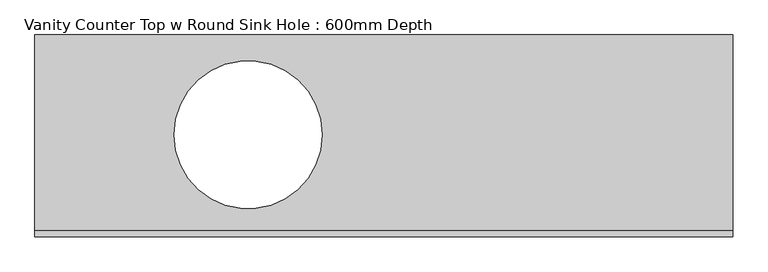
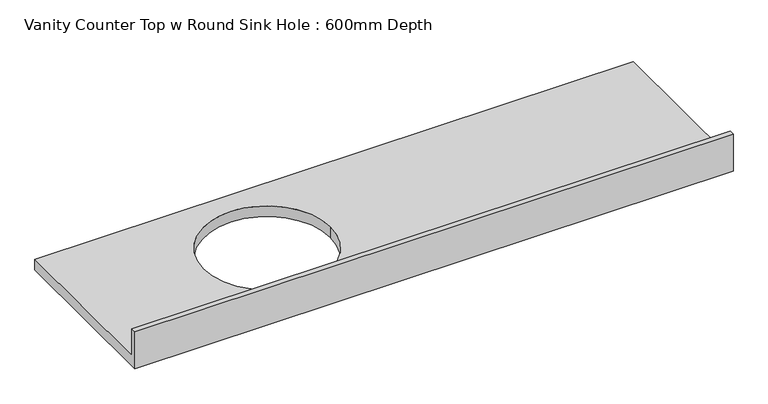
"""IFC4 building model written with IfcOpenShell, lengths in millimetres: furniture geometry, Vanity Counter Top w Round Sink Hole : 600mm Depth."""

import ifcopenshell
import ifcopenshell.guid

model = None  # the IFC model being written
_history = None  # IfcOwnerHistory: only IFC2X3 demands one
_inside = {}  # id of a spatial element -> (the spatial element, [elements in it])
_under = {}  # id of a project, library or spatial element -> (it, [spatial elements below it])
_declared = {}  # id of a project -> (the project, [libraries it declares])
_typed = {}  # id of a type object -> (the type object, [elements of that type])
_made_of = {}  # id of a material, layer set ... -> (it, [elements and type objects made of it])


def new_model(schema):
    """Start an empty IFC model of exactly this schema.

    Asked for "IFC4X3", IfcOpenShell would pick the latest addendum, in which some entities
    have other attributes; the version numbers below select the first issue.
    IFC2X3 requires an IfcOwnerHistory on every rooted entity: one is made here for all.
    """
    global model, _history
    if schema == "IFC4X3":
        model = ifcopenshell.file(schema_version=(4, 3, 0, 0))
    else:
        model = ifcopenshell.file(schema=schema)
    _inside.clear()
    _under.clear()
    _declared.clear()
    _typed.clear()
    _made_of.clear()
    _history = None
    if model.schema == "IFC2X3":
        org = make("IfcOrganization", Name="unknown")
        user = make(
            "IfcPersonAndOrganization",
            ThePerson=make("IfcPerson", FamilyName="unknown"),
            TheOrganization=org,
        )
        app = make(
            "IfcApplication",
            ApplicationDeveloper=org,
            Version="unknown",
            ApplicationFullName="unknown",
            ApplicationIdentifier="unknown",
        )
        _history = make(
            "IfcOwnerHistory",
            OwningUser=user,
            OwningApplication=app,
            ChangeAction="ADDED",
            CreationDate=0,
        )
    return model


def make(cls, **values):
    """One entity of the class cls with the attributes given. An attribute that is None is left unset."""
    return model.create_entity(
        cls, **{name: value for name, value in values.items() if value is not None}
    )


def rooted(cls, **values):
    """An entity with a GlobalId (a new one), such as an element, a storey or a relation."""
    return make(cls, GlobalId=ifcopenshell.guid.new(), OwnerHistory=_history, **values)


def si_unit(unit_type, name, prefix=None):
    """IfcSIUnit, for example si_unit("LENGTHUNIT", "METRE", prefix="MILLI")."""
    return make("IfcSIUnit", UnitType=unit_type, Prefix=prefix, Name=name)


def assignment(units):
    """IfcUnitAssignment: the units of a project."""
    return None if units is None else make("IfcUnitAssignment", Units=units)


def point(xyz):
    """IfcCartesianPoint."""
    return None if xyz is None else make("IfcCartesianPoint", Coordinates=xyz)


def direction(xyz):
    """IfcDirection."""
    return None if xyz is None else make("IfcDirection", DirectionRatios=xyz)


def frame(location, z_axis=None, x_axis=None):
    """IfcAxis2Placement3D, a coordinate frame: its origin and axes. An axis left out is left unset."""
    return make(
        "IfcAxis2Placement3D",
        Location=point(location),
        Axis=direction(z_axis),
        RefDirection=direction(x_axis),
    )


def origin():
    """The frame at (0, 0, 0) with its axes left unset."""
    return frame((0.0, 0.0, 0.0))


def place(relative_to, where):
    """IfcLocalPlacement: puts the frame where relative to a parent placement (None: the world)."""
    return make(
        "IfcLocalPlacement", PlacementRelTo=relative_to, RelativePlacement=where
    )


def context(
    kind, dimensions, precision=None, world=None, true_north=None, identifier=None
):
    """IfcGeometricRepresentationContext, for example the 3D "Model" context."""
    return make(
        "IfcGeometricRepresentationContext",
        ContextIdentifier=identifier,
        ContextType=kind,
        CoordinateSpaceDimension=dimensions,
        Precision=precision,
        WorldCoordinateSystem=world,
        TrueNorth=true_north,
    )


def project(units=None, contexts=None):
    """IfcProject with its units and contexts."""
    return rooted(
        "IfcProject",
        Name="project",
        RepresentationContexts=contexts,
        UnitsInContext=assignment(units),
    )


def spatial(cls, under=None, at=None, **own):
    """A site, building, storey or space (cls), placed at a placement, below another one or the project."""
    s = rooted(cls, ObjectPlacement=at, **own)
    if under is not None:
        _under.setdefault(under.id(), (under, []))[1].append(s)
    return s


def polyline(points):
    """IfcPolyline through the points."""
    return make("IfcPolyline", Points=[point(p) for p in points])


def circle_curve(where, radius):
    """IfcCircle in the frame where."""
    return make("IfcCircle", Position=where, Radius=radius)


def shape(context_of_items, identifier, shape_type, items):
    """IfcShapeRepresentation: the items that make up one representation, for example the "Body"."""
    return make(
        "IfcShapeRepresentation",
        ContextOfItems=context_of_items,
        RepresentationIdentifier=identifier,
        RepresentationType=shape_type,
        Items=items,
    )


def source(mapping_origin, context_of_items, identifier, shape_type, items):
    """IfcRepresentationMap: a shape defined once, which mapped items show again and again."""
    return make(
        "IfcRepresentationMap",
        MappingOrigin=mapping_origin,
        MappedRepresentation=shape(context_of_items, identifier, shape_type, items),
    )


def transform(
    local_origin,
    x_axis=None,
    y_axis=None,
    z_axis=None,
    scale=None,
    scale2=None,
    scale3=None,
    uniform=True,
):
    """IfcCartesianTransformationOperator3D, or its non-uniform kind. x_axis, y_axis, z_axis: its Axis1, 2, 3."""
    if uniform:
        return make(
            "IfcCartesianTransformationOperator3D",
            Axis1=direction(x_axis),
            Axis2=direction(y_axis),
            LocalOrigin=point(local_origin),
            Scale=scale,
            Axis3=direction(z_axis),
        )
    return make(
        "IfcCartesianTransformationOperator3DnonUniform",
        Axis1=direction(x_axis),
        Axis2=direction(y_axis),
        LocalOrigin=point(local_origin),
        Scale=scale,
        Axis3=direction(z_axis),
        Scale2=scale2,
        Scale3=scale3,
    )


def mapped(mapping_source, mapping_target):
    """IfcMappedItem: shows the shape of a source again, moved by a transform."""
    return make(
        "IfcMappedItem", MappingSource=mapping_source, MappingTarget=mapping_target
    )


def made_of(thing, what):
    """Note that an element or type object is made of a material, layer set ...; save() writes the relation."""
    if what is not None:
        _made_of.setdefault(what.id(), (what, []))[1].append(thing)
    return thing


def element(
    cls,
    number,
    at=None,
    inside=None,
    cuts=None,
    type_object=None,
    material=None,
    context=None,
    identifier="Body",
    shape_type=None,
    held_by="IfcProductDefinitionShape",
    body=None,
    shapes=None,
    **own,
):
    """One element of the class cls, such as IfcWall. Its Tag is "e" and its number.

    at: its placement. inside: the storey or other place that contains it. cuts: it is an
    opening in that element (IfcRelVoidsElement). A single representation is given by context,
    identifier, shape_type and body (its items); several are given by shapes. held_by: the class
    of the entity that holds the representations. save() writes the other relations.
    """
    e = rooted(cls, Tag="e%d" % number, ObjectPlacement=at, **own)
    if body is not None:
        shapes = [shape(context, identifier, shape_type, body)]
    if shapes is not None:
        e.Representation = make(held_by, Representations=shapes)
    if inside is not None:
        _inside.setdefault(inside.id(), (inside, []))[1].append(e)
    if cuts is not None:
        rooted(
            "IfcRelVoidsElement", RelatingBuildingElement=cuts, RelatedOpeningElement=e
        )
    if type_object is not None:
        _typed.setdefault(type_object.id(), (type_object, []))[1].append(e)
    return made_of(e, material)


def aggregate(whole, parts):
    """IfcRelAggregates: a whole, such as a stair, and the parts it consists of."""
    return rooted("IfcRelAggregates", RelatingObject=whole, RelatedObjects=parts)


def save(model, path):
    """Write the relations noted so far, then the file.

    IfcRelAggregates (storeys below a building ...), IfcRelContainedInSpatialStructure (elements
    in a storey), IfcRelDefinesByType, IfcRelAssociatesMaterial and IfcRelDeclares: one each for
    every whole, place, type object, material and project.
    """
    for whole, parts in _under.values():
        aggregate(whole, parts)
    for where, things in _inside.values():
        rooted(
            "IfcRelContainedInSpatialStructure",
            RelatedElements=things,
            RelatingStructure=where,
        )
    for kind, things in _typed.values():
        rooted("IfcRelDefinesByType", RelatedObjects=things, RelatingType=kind)
    for what, things in _made_of.values():
        rooted("IfcRelAssociatesMaterial", RelatedObjects=things, RelatingMaterial=what)
    for by, libraries in _declared.values():
        rooted("IfcRelDeclares", RelatingContext=by, RelatedDefinitions=libraries)
    model.write(path)


def plane_surface(at):
    """IfcPlane: the flat surface through the origin of the frame at, square to its z axis."""
    return make("IfcPlane", Position=at)


def revolved_surface(curve, axis_point, axis_direction):
    """IfcSurfaceOfRevolution: the curve turned about the line through axis_point along axis_direction."""
    return make(
        "IfcSurfaceOfRevolution",
        SweptCurve=make("IfcArbitraryOpenProfileDef", ProfileType="CURVE", Curve=curve),
        AxisPosition=make("IfcAxis1Placement", Location=point(axis_point), Axis=direction(axis_direction)),
    )


def advanced_brep(points, edges, surfaces, faces):
    """IfcAdvancedBrep: a solid bounded by faces that lie on surfaces and meet in shared edges.

    An edge is (start, end): straight between two places in points (the first is 0);
    or (start, end, curve); or (start, end, curve, False) where it runs against its curve.
    A face is (place in surfaces, loops), or (place, loops, False) where it looks against
    its surface's normal. A loop lists edges by number (the first is 1), with a minus sign
    where the edge is run from its end to its start. The first loop is the outer one.
    """
    corners = [point(p) for p in points]
    vertices = [make("IfcVertexPoint", VertexGeometry=c) for c in corners]
    made = []
    for start, end, *more in edges:
        made.append(
            make(
                "IfcEdgeCurve",
                EdgeStart=vertices[start],
                EdgeEnd=vertices[end],
                EdgeGeometry=more[0] if more else make("IfcPolyline", Points=[corners[start], corners[end]]),
                SameSense=more[1] if len(more) > 1 else True,
            )
        )
    hull = []
    for where, loops, *sense in faces:
        bounds = []
        for j, loop in enumerate(loops):
            ring = [make("IfcOrientedEdge", EdgeElement=made[abs(k) - 1], Orientation=k > 0) for k in loop]
            bounds.append(
                make(
                    "IfcFaceOuterBound" if j == 0 else "IfcFaceBound",
                    Bound=make("IfcEdgeLoop", EdgeList=ring),
                    Orientation=True,
                )
            )
        hull.append(make("IfcAdvancedFace", Bounds=bounds, FaceSurface=surfaces[where], SameSense=sense[0] if sense else True))
    return make("IfcAdvancedBrep", Outer=make("IfcClosedShell", CfsFaces=hull))


def vanity_counter_top_w_round_sink_hole_600mm_depth_ceb9e691(model_context):
    return source(origin(), model_context, "Body", "AdvancedBrep", [
        advanced_brep(
        [(-1327.4622951, 0.0, 851.6), (832.5377049, 0.0, 851.6), (832.5377049, 19.05, 851.6), (-1327.4622951, 19.05, 851.6), (-1327.4622951, 19.05, 750.0), (-1327.4622951, 625.0, 750.0), (-1327.4622951, 625.0, 710.0), (-1327.4622951, 0.0, 710.0), (832.5377049, 19.05, 750.0), (832.5377049, 0.0, 710.0), (832.5377049, 625.0, 710.0), (832.5377049, 625.0, 750.0), (-438.7622951, 316.0, 750.0), (-896.1622951, 316.0, 750.0), (-896.1622951, 316.0, 710.0), (-438.7622951, 316.0, 710.0)],
        [
            (0, 1),
            (1, 2),
            (2, 3),
            (3, 0),
            (3, 4),
            (4, 5),
            (5, 6),
            (6, 7),
            (7, 0),
            (2, 8),
            (8, 4),
            (1, 9),
            (9, 10),
            (10, 11),
            (11, 8),
            (7, 9),
            (12, 13, circle_curve(frame((-667.4622951, 316.0, 750.0), z_axis=(0.0, 0.0, 1.0), x_axis=(1.0, 0.0, 0.0)), 228.7)),
            (13, 14),
            (14, 15, circle_curve(frame((-667.4622951, 316.0, 710.0), z_axis=(0.0, 0.0, -1.0), x_axis=(1.0, 0.0, 0.0)), 228.7)),
            (15, 12),
            (15, 14, circle_curve(frame((-667.4622951, 316.0, 710.0), z_axis=(0.0, 0.0, -1.0), x_axis=(1.0, 0.0, 0.0)), 228.7)),
            (13, 12, circle_curve(frame((-667.4622951, 316.0, 750.0), z_axis=(0.0, 0.0, 1.0), x_axis=(1.0, 0.0, 0.0)), 228.7)),
            (11, 5),
            (6, 10),
        ],
        [
            plane_surface(frame((-1327.4622951, 0.0, 851.6), z_axis=(0.0, 0.0, 1.0), x_axis=(0.0, 1.0, 0.0))),
            plane_surface(frame((-1327.4622951, 0.0, 851.6), z_axis=(-1.0, 0.0, 0.0), x_axis=(0.0, 0.0, -1.0))),
            plane_surface(frame((-1327.4622951, 19.05, 851.6), z_axis=(0.0, 1.0, 0.0), x_axis=(0.0, 0.0, -1.0))),
            plane_surface(frame((832.5377049, 19.05, 851.6), z_axis=(1.0, 0.0, 0.0), x_axis=(0.0, 0.0, -1.0))),
            plane_surface(frame((832.5377049, 0.0, 851.6), z_axis=(0.0, -1.0, 0.0), x_axis=(0.0, 0.0, -1.0))),
            revolved_surface(polyline([(-438.7622951, 316.0, 750.0), (-438.7622951, 316.0, 710.0)]), (-667.4622951, 316.0, 710.0), (0.0, 0.0, 1.0)),
            plane_surface(frame((-1327.4622951, 0.0, 750.0), z_axis=(0.0, 0.0, 1.0), x_axis=(-1.0, 0.0, 0.0))),
            plane_surface(frame((-1327.4622951, 0.0, 710.0), z_axis=(0.0, 0.0, -1.0), x_axis=(1.0, 0.0, 0.0))),
            plane_surface(frame((-1327.4622951, 625.0, 750.0), z_axis=(0.0, 1.0, 0.0), x_axis=(0.0, 0.0, -1.0))),
        ],
        [
            (0, [[1, 2, 3, 4]]),
            (1, [[5, 6, 7, 8, 9, -4]]),
            (2, [[10, 11, -5, -3]]),
            (3, [[12, 13, 14, 15, -10, -2]]),
            (4, [[-9, 16, -12, -1]]),
            (5, [[17, 18, 19, 20]]),
            (5, [[21, -18, 22, -20]]),
            (6, [[-6, -11, -15, 23], [-22, -17]]),
            (7, [[-16, -8, 24, -13], [-21, -19]]),
            (8, [[-14, -24, -7, -23]]),
        ],
    ),
    ])


if __name__ == "__main__":
    model = new_model("IFC4")
    model_context = context("Model", 3, world=origin())
    ifc_project = project(units=[si_unit("LENGTHUNIT", "METRE", prefix="MILLI")], contexts=[model_context])
    site = spatial("IfcSite", under=ifc_project)
    building = spatial("IfcBuilding", under=site)
    placement = place(None, origin())
    vanity_counter_top_w_round_sink_hole_600mm_depth_shape = vanity_counter_top_w_round_sink_hole_600mm_depth_ceb9e691(model_context)
    element("IfcFurniture", 1, ObjectType="Vanity Counter Top w Round Sink Hole : 600mm Depth", at=placement, inside=building, context=model_context, shape_type="MappedRepresentation", body=[
        mapped(vanity_counter_top_w_round_sink_hole_600mm_depth_shape, transform((0.0, 0.0, 0.0), x_axis=(1.0, 0.0, 0.0), y_axis=(0.0, 1.0, 0.0), z_axis=(0.0, 0.0, 1.0))),
    ])
    save(model, "model.ifc")
